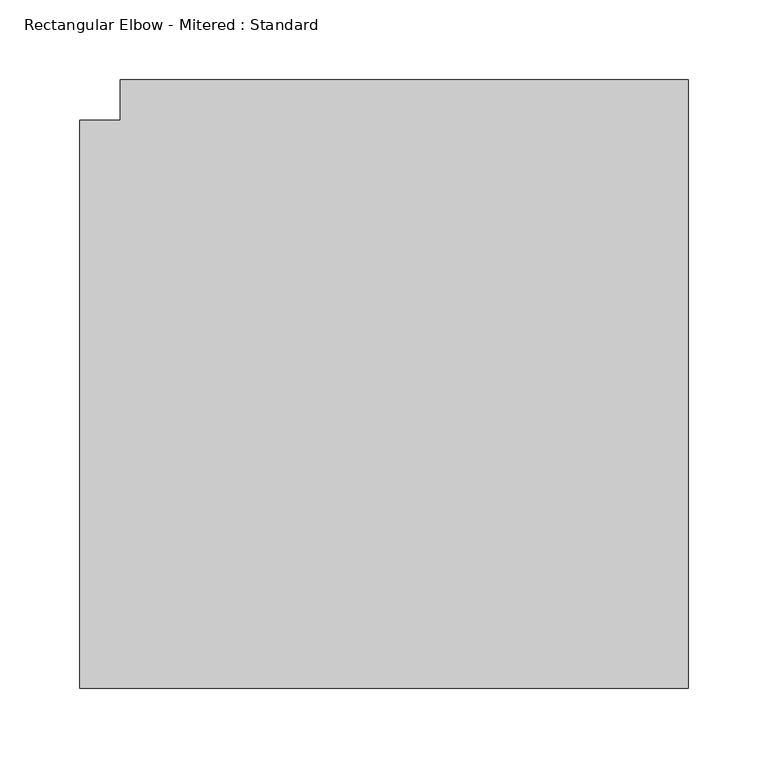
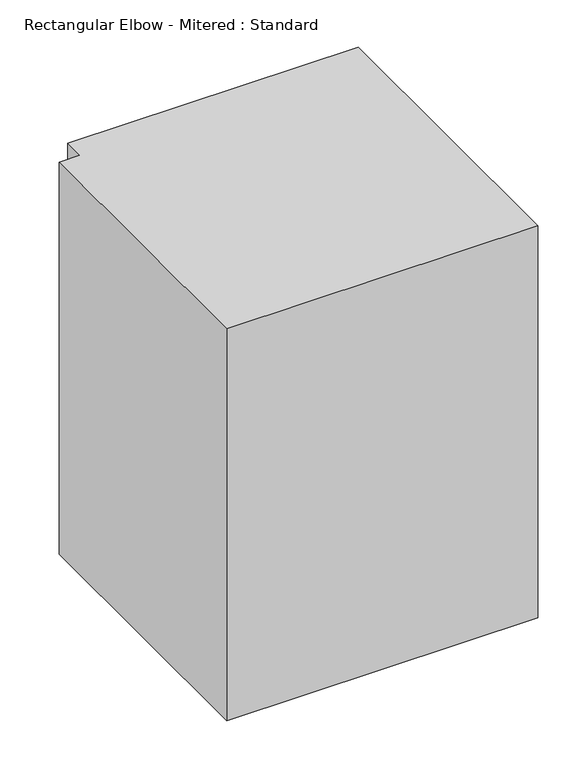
"""IFC4 building model written with IfcOpenShell, lengths in millimetres: duct fitting geometry, Rectangular Elbow - Mitered : Standard."""

from ifc_helpers import new_model, si_unit, frame, origin, place, context, project, spatial, polyline, outline, extrude, source, transform, mapped, element, save


def rectangular_elbow_mitered_standard_1df2d050(model_context):
    return source(origin(), model_context, "Body", "SweptSolid", [
        extrude(outline(polyline([(-203.2, -177.8), (-203.2, 177.8), (-177.8, 177.8), (-177.8, 203.2), (177.8, 203.2), (177.8, -177.8), (-203.2, -177.8)])), frame((0.0, 0.0, -254.0), z_axis=(0.0, 0.0, 1.0), x_axis=(1.0, 0.0, 0.0)), (0.0, 0.0, 1.0), 508.0),
    ])


if __name__ == "__main__":
    model = new_model("IFC4")
    model_context = context("Model", 3, world=origin())
    ifc_project = project(units=[si_unit("LENGTHUNIT", "METRE", prefix="MILLI")], contexts=[model_context])
    site = spatial("IfcSite", under=ifc_project)
    building = spatial("IfcBuilding", under=site)
    placement = place(None, origin())
    rectangular_elbow_mitered_standard_shape = rectangular_elbow_mitered_standard_1df2d050(model_context)
    element("IfcDuctFitting", 1, ObjectType="Rectangular Elbow - Mitered : Standard", at=placement, inside=building, context=model_context, shape_type="MappedRepresentation", body=[
        mapped(rectangular_elbow_mitered_standard_shape, transform((0.0, 0.0, 0.0), x_axis=(1.0, 0.0, 0.0), y_axis=(0.0, 1.0, 0.0), z_axis=(0.0, 0.0, 1.0))),
    ])
    save(model, "model.ifc")
